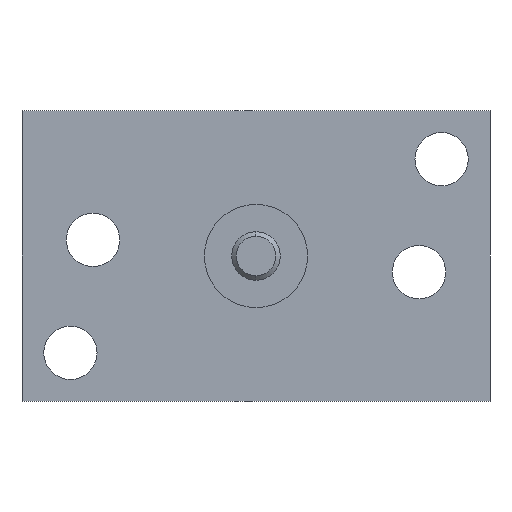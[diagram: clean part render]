
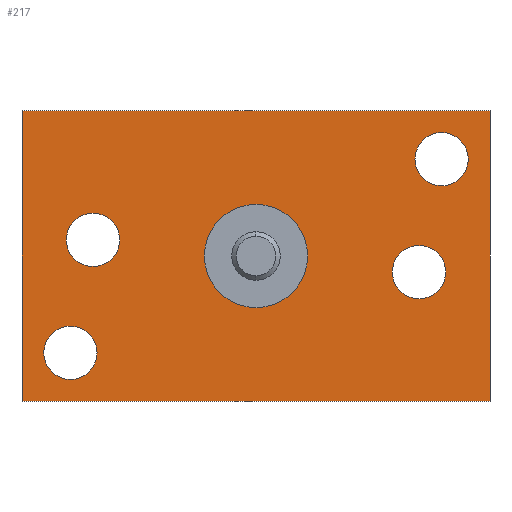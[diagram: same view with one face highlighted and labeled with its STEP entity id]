
A CAD part, front view. The second image highlights one B-rep face of the part: STEP entity #217.
In plain terms, the highlighted planar face has unit normal (0, -1, 0).
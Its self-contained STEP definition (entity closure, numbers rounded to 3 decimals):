
#3 = LINE ( 'NONE', #1203, #70 ) ;
#48 = DIRECTION ( 'NONE',  ( 0., 1., 0. ) ) ;
#70 = VECTOR ( 'NONE', #410, 1000. ) ;
#85 = VERTEX_POINT ( 'NONE', #1325 ) ;
#89 = EDGE_CURVE ( 'NONE', #777, #1263, #1479, .T. ) ;
#101 = CIRCLE ( 'NONE', #1074, 2.1 ) ;
#103 = EDGE_LOOP ( 'NONE', ( #1058, #1164 ) ) ;
#106 = EDGE_LOOP ( 'NONE', ( #628, #1369, #1183, #338 ) ) ;
#117 = CARTESIAN_POINT ( 'NONE',  ( 10.1, 0., -1. ) ) ;
#123 = AXIS2_PLACEMENT_3D ( 'NONE', #1192, #277, #804 ) ;
#138 = DIRECTION ( 'NONE',  ( 1., 0., 0. ) ) ;
#157 = CARTESIAN_POINT ( 'NONE',  ( 10.1, 0., 0.65 ) ) ;
#161 = PLANE ( 'NONE',  #342 ) ;
#169 = CARTESIAN_POINT ( 'NONE',  ( 14.5, 0., 9. ) ) ;
#172 = FACE_BOUND ( 'NONE', #103, .T. ) ;
#192 = VERTEX_POINT ( 'NONE', #412 ) ;
#217 = ADVANCED_FACE ( 'NONE', ( #818, #1343, #172, #970, #1270, #1359 ), #161, .F. ) ;
#237 = CARTESIAN_POINT ( 'NONE',  ( 10.1, 0., -2.65 ) ) ;
#247 = CARTESIAN_POINT ( 'NONE',  ( -14.5, 0., 9. ) ) ;
#253 = CIRCLE ( 'NONE', #707, 1.65 ) ;
#258 = AXIS2_PLACEMENT_3D ( 'NONE', #652, #1287, #1144 ) ;
#264 = EDGE_CURVE ( 'NONE', #85, #656, #1587, .T. ) ;
#277 = DIRECTION ( 'NONE',  ( 0., 1., 0. ) ) ;
#304 = CARTESIAN_POINT ( 'NONE',  ( -10.1, 0., 2.65 ) ) ;
#307 = CARTESIAN_POINT ( 'NONE',  ( -10.1, 0., 1. ) ) ;
#309 = AXIS2_PLACEMENT_3D ( 'NONE', #1331, #1078, #1490 ) ;
#338 = ORIENTED_EDGE ( 'NONE', *, *, #469, .F. ) ;
#341 = EDGE_CURVE ( 'NONE', #1150, #1232, #994, .T. ) ;
#342 = AXIS2_PLACEMENT_3D ( 'NONE', #461, #48, #1626 ) ;
#350 = ORIENTED_EDGE ( 'NONE', *, *, #1322, .T. ) ;
#351 = EDGE_CURVE ( 'NONE', #1346, #192, #101, .T. ) ;
#384 = DIRECTION ( 'NONE',  ( 0., 0., 1. ) ) ;
#390 = DIRECTION ( 'NONE',  ( 0., 1., 0. ) ) ;
#410 = DIRECTION ( 'NONE',  ( -1., 0., 0. ) ) ;
#412 = CARTESIAN_POINT ( 'NONE',  ( 0., 0., -2.1 ) ) ;
#414 = EDGE_LOOP ( 'NONE', ( #350, #1665 ) ) ;
#419 = CARTESIAN_POINT ( 'NONE',  ( 14.5, 0., 9. ) ) ;
#428 = DIRECTION ( 'NONE',  ( 0., 0., -1. ) ) ;
#437 = DIRECTION ( 'NONE',  ( 0., 0., 1. ) ) ;
#444 = EDGE_CURVE ( 'NONE', #519, #1661, #511, .T. ) ;
#461 = CARTESIAN_POINT ( 'NONE',  ( 0., 0., 0. ) ) ;
#469 = EDGE_CURVE ( 'NONE', #1661, #777, #1465, .T. ) ;
#498 = CARTESIAN_POINT ( 'NONE',  ( 14.5, 0., -9. ) ) ;
#509 = VERTEX_POINT ( 'NONE', #157 ) ;
#510 = DIRECTION ( 'NONE',  ( 0., 0., 1. ) ) ;
#511 = LINE ( 'NONE', #247, #1460 ) ;
#513 = EDGE_CURVE ( 'NONE', #529, #869, #253, .T. ) ;
#517 = CARTESIAN_POINT ( 'NONE',  ( 14.5, 0., 9. ) ) ;
#519 = VERTEX_POINT ( 'NONE', #1338 ) ;
#528 = CARTESIAN_POINT ( 'NONE',  ( 0., 0., 0. ) ) ;
#529 = VERTEX_POINT ( 'NONE', #565 ) ;
#565 = CARTESIAN_POINT ( 'NONE',  ( -10.1, 0., -0.65 ) ) ;
#570 = ORIENTED_EDGE ( 'NONE', *, *, #351, .T. ) ;
#591 = DIRECTION ( 'NONE',  ( 0., 1., 0. ) ) ;
#600 = CIRCLE ( 'NONE', #962, 1.65 ) ;
#628 = ORIENTED_EDGE ( 'NONE', *, *, #444, .F. ) ;
#652 = CARTESIAN_POINT ( 'NONE',  ( -11.5, 0., -6. ) ) ;
#656 = VERTEX_POINT ( 'NONE', #979 ) ;
#674 = CARTESIAN_POINT ( 'NONE',  ( 0., 0., 2.1 ) ) ;
#707 = AXIS2_PLACEMENT_3D ( 'NONE', #307, #1356, #437 ) ;
#746 = CARTESIAN_POINT ( 'NONE',  ( 0., 0., 0. ) ) ;
#756 = EDGE_CURVE ( 'NONE', #656, #85, #600, .T. ) ;
#772 = DIRECTION ( 'NONE',  ( 0., 0., 1. ) ) ;
#775 = EDGE_CURVE ( 'NONE', #509, #1614, #1564, .T. ) ;
#777 = VERTEX_POINT ( 'NONE', #517 ) ;
#793 = AXIS2_PLACEMENT_3D ( 'NONE', #746, #1140, #1652 ) ;
#804 = DIRECTION ( 'NONE',  ( 0., 0., 1. ) ) ;
#818 = FACE_BOUND ( 'NONE', #414, .T. ) ;
#825 = VECTOR ( 'NONE', #428, 1000. ) ;
#827 = VECTOR ( 'NONE', #138, 1000. ) ;
#832 = EDGE_LOOP ( 'NONE', ( #844, #877 ) ) ;
#844 = ORIENTED_EDGE ( 'NONE', *, *, #775, .T. ) ;
#847 = CIRCLE ( 'NONE', #309, 1.65 ) ;
#868 = CARTESIAN_POINT ( 'NONE',  ( -11.5, 0., -4.35 ) ) ;
#869 = VERTEX_POINT ( 'NONE', #304 ) ;
#871 = CIRCLE ( 'NONE', #123, 1.65 ) ;
#872 = DIRECTION ( 'NONE',  ( 0., 0., 1. ) ) ;
#876 = EDGE_CURVE ( 'NONE', #1263, #519, #3, .T. ) ;
#877 = ORIENTED_EDGE ( 'NONE', *, *, #1651, .T. ) ;
#882 = CARTESIAN_POINT ( 'NONE',  ( -14.5, 0., 9. ) ) ;
#891 = DIRECTION ( 'NONE',  ( 0., 1., 0. ) ) ;
#921 = EDGE_CURVE ( 'NONE', #869, #529, #847, .T. ) ;
#929 = CIRCLE ( 'NONE', #793, 2.1 ) ;
#936 = AXIS2_PLACEMENT_3D ( 'NONE', #1272, #891, #384 ) ;
#962 = AXIS2_PLACEMENT_3D ( 'NONE', #1657, #390, #510 ) ;
#970 = FACE_BOUND ( 'NONE', #1317, .T. ) ;
#975 = CARTESIAN_POINT ( 'NONE',  ( 11.5, 0., 6. ) ) ;
#979 = CARTESIAN_POINT ( 'NONE',  ( 11.5, 0., 4.35 ) ) ;
#994 = CIRCLE ( 'NONE', #258, 1.65 ) ;
#1058 = ORIENTED_EDGE ( 'NONE', *, *, #921, .T. ) ;
#1074 = AXIS2_PLACEMENT_3D ( 'NONE', #528, #1658, #772 ) ;
#1078 = DIRECTION ( 'NONE',  ( 0., 1., 0. ) ) ;
#1115 = ORIENTED_EDGE ( 'NONE', *, *, #756, .T. ) ;
#1129 = EDGE_LOOP ( 'NONE', ( #1193, #1115 ) ) ;
#1140 = DIRECTION ( 'NONE',  ( 0., 1., 0. ) ) ;
#1142 = DIRECTION ( 'NONE',  ( 0., 1., 0. ) ) ;
#1144 = DIRECTION ( 'NONE',  ( 0., 0., 1. ) ) ;
#1150 = VERTEX_POINT ( 'NONE', #1281 ) ;
#1164 = ORIENTED_EDGE ( 'NONE', *, *, #513, .T. ) ;
#1183 = ORIENTED_EDGE ( 'NONE', *, *, #89, .F. ) ;
#1192 = CARTESIAN_POINT ( 'NONE',  ( -11.5, 0., -6. ) ) ;
#1193 = ORIENTED_EDGE ( 'NONE', *, *, #264, .T. ) ;
#1203 = CARTESIAN_POINT ( 'NONE',  ( 14.5, 0., -9. ) ) ;
#1232 = VERTEX_POINT ( 'NONE', #868 ) ;
#1255 = EDGE_CURVE ( 'NONE', #192, #1346, #929, .T. ) ;
#1263 = VERTEX_POINT ( 'NONE', #498 ) ;
#1270 = FACE_BOUND ( 'NONE', #1129, .T. ) ;
#1272 = CARTESIAN_POINT ( 'NONE',  ( 10.1, 0., -1. ) ) ;
#1281 = CARTESIAN_POINT ( 'NONE',  ( -11.5, 0., -7.65 ) ) ;
#1287 = DIRECTION ( 'NONE',  ( 0., 1., 0. ) ) ;
#1291 = AXIS2_PLACEMENT_3D ( 'NONE', #975, #591, #872 ) ;
#1315 = DIRECTION ( 'NONE',  ( 0., 0., 1. ) ) ;
#1317 = EDGE_LOOP ( 'NONE', ( #570, #1535 ) ) ;
#1322 = EDGE_CURVE ( 'NONE', #1232, #1150, #871, .T. ) ;
#1325 = CARTESIAN_POINT ( 'NONE',  ( 11.5, 0., 7.65 ) ) ;
#1331 = CARTESIAN_POINT ( 'NONE',  ( -10.1, 0., 1. ) ) ;
#1338 = CARTESIAN_POINT ( 'NONE',  ( -14.5, 0., -9. ) ) ;
#1343 = FACE_BOUND ( 'NONE', #832, .T. ) ;
#1346 = VERTEX_POINT ( 'NONE', #674 ) ;
#1356 = DIRECTION ( 'NONE',  ( 0., 1., 0. ) ) ;
#1359 = FACE_OUTER_BOUND ( 'NONE', #106, .T. ) ;
#1369 = ORIENTED_EDGE ( 'NONE', *, *, #876, .F. ) ;
#1458 = CIRCLE ( 'NONE', #936, 1.65 ) ;
#1460 = VECTOR ( 'NONE', #1315, 1000. ) ;
#1465 = LINE ( 'NONE', #169, #827 ) ;
#1479 = LINE ( 'NONE', #419, #825 ) ;
#1490 = DIRECTION ( 'NONE',  ( 0., 0., 1. ) ) ;
#1535 = ORIENTED_EDGE ( 'NONE', *, *, #1255, .T. ) ;
#1538 = AXIS2_PLACEMENT_3D ( 'NONE', #117, #1142, #1549 ) ;
#1549 = DIRECTION ( 'NONE',  ( 0., 0., 1. ) ) ;
#1564 = CIRCLE ( 'NONE', #1538, 1.65 ) ;
#1587 = CIRCLE ( 'NONE', #1291, 1.65 ) ;
#1614 = VERTEX_POINT ( 'NONE', #237 ) ;
#1626 = DIRECTION ( 'NONE',  ( 0., 0., 1. ) ) ;
#1651 = EDGE_CURVE ( 'NONE', #1614, #509, #1458, .T. ) ;
#1652 = DIRECTION ( 'NONE',  ( 0., 0., 1. ) ) ;
#1657 = CARTESIAN_POINT ( 'NONE',  ( 11.5, 0., 6. ) ) ;
#1658 = DIRECTION ( 'NONE',  ( 0., 1., 0. ) ) ;
#1661 = VERTEX_POINT ( 'NONE', #882 ) ;
#1665 = ORIENTED_EDGE ( 'NONE', *, *, #341, .T. ) ;
